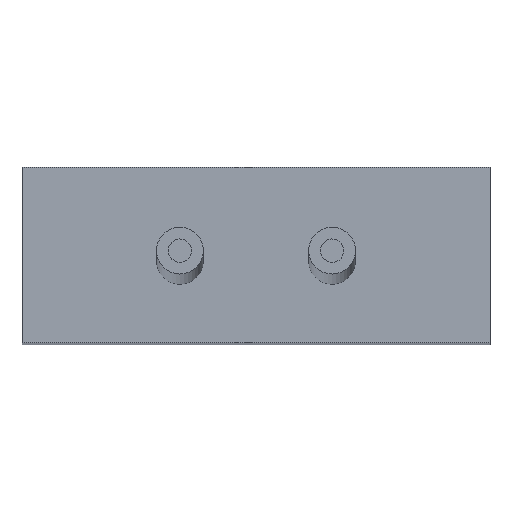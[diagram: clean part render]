
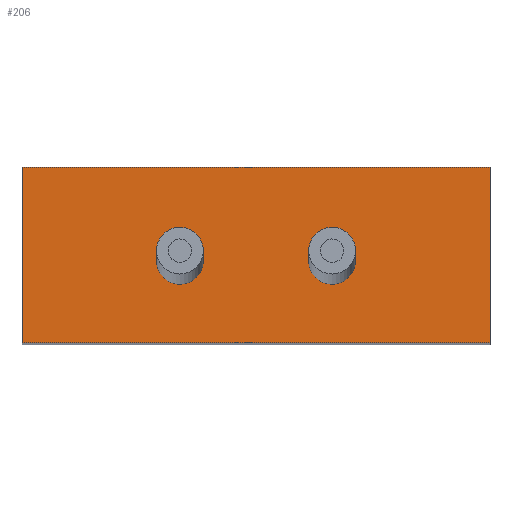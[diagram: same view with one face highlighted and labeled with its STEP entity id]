
A CAD part, top view. The second image highlights one B-rep face of the part: STEP entity #206.
In plain terms, the highlighted planar face has unit normal (0, 0, 1).
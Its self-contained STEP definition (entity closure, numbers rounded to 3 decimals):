
#13=LINE($,#320,#25);
#16=LINE($,#326,#28);
#19=LINE($,#332,#31);
#22=LINE($,#337,#34);
#25=VECTOR($,#269,15.);
#28=VECTOR($,#274,40.);
#31=VECTOR($,#279,15.);
#34=VECTOR($,#284,40.);
#45=PLANE($,#231);
#54=FACE_BOUND($,#87,.T.);
#55=FACE_BOUND($,#88,.T.);
#56=FACE_BOUND($,#89,.T.);
#87=EDGE_LOOP($,(#168));
#88=EDGE_LOOP($,(#169));
#89=EDGE_LOOP($,(#170,#171,#172,#173));
#93=CIRCLE($,#216,2.);
#97=CIRCLE($,#224,2.);
#101=VERTEX_POINT($,#300);
#105=VERTEX_POINT($,#312);
#106=VERTEX_POINT($,#316);
#108=VERTEX_POINT($,#319);
#110=VERTEX_POINT($,#325);
#112=VERTEX_POINT($,#331);
#117=EDGE_CURVE($,#101,#101,#93,.T.);
#121=EDGE_CURVE($,#105,#105,#97,.T.);
#123=EDGE_CURVE($,#108,#106,#13,.T.);
#126=EDGE_CURVE($,#110,#108,#16,.T.);
#129=EDGE_CURVE($,#112,#110,#19,.T.);
#132=EDGE_CURVE($,#106,#112,#22,.T.);
#168=ORIENTED_EDGE($,*,*,#117,.T.);
#169=ORIENTED_EDGE($,*,*,#121,.T.);
#170=ORIENTED_EDGE($,*,*,#132,.T.);
#171=ORIENTED_EDGE($,*,*,#129,.T.);
#172=ORIENTED_EDGE($,*,*,#126,.T.);
#173=ORIENTED_EDGE($,*,*,#123,.T.);
#206=ADVANCED_FACE($,(#54,#55,#56),#45,.T.);
#216=AXIS2_PLACEMENT_3D($,#301,#246,#247);
#224=AXIS2_PLACEMENT_3D($,#313,#262,#263);
#231=AXIS2_PLACEMENT_3D($,#340,#288,#289);
#246=DIRECTION('center_axis',(0.,0.,
-1.));
#247=DIRECTION('ref_axis',(-1.,0.,0.));
#262=DIRECTION('center_axis',(0.,0.,
-1.));
#263=DIRECTION('ref_axis',(-1.,0.,0.));
#269=DIRECTION($,(0.,1.,0.));
#274=DIRECTION($,(1.,0.,0.));
#279=DIRECTION($,(0.,-1.,0.));
#284=DIRECTION($,(-1.,0.,0.));
#288=DIRECTION('center_axis',(0.,0.,
1.));
#289=DIRECTION('ref_axis',(1.,0.,0.));
#300=CARTESIAN_POINT('',(63.302,0.284,66.656));
#301=CARTESIAN_POINT('Origin',(61.302,0.284,66.656));
#312=CARTESIAN_POINT('',(76.302,0.284,66.656));
#313=CARTESIAN_POINT('Origin',(74.302,0.284,66.656));
#316=CARTESIAN_POINT('',(87.802,8.284,66.656));
#319=CARTESIAN_POINT('',(87.802,-6.716,66.656));
#320=CARTESIAN_POINT($,(87.802,8.284,66.656));
#325=CARTESIAN_POINT('',(47.802,-6.716,66.656));
#326=CARTESIAN_POINT($,(87.802,-6.716,66.656));
#331=CARTESIAN_POINT('',(47.802,8.284,66.656));
#332=CARTESIAN_POINT($,(47.802,-6.716,66.656));
#337=CARTESIAN_POINT($,(47.802,8.284,66.656));
#340=CARTESIAN_POINT('Origin',(67.802,0.784,66.656));
